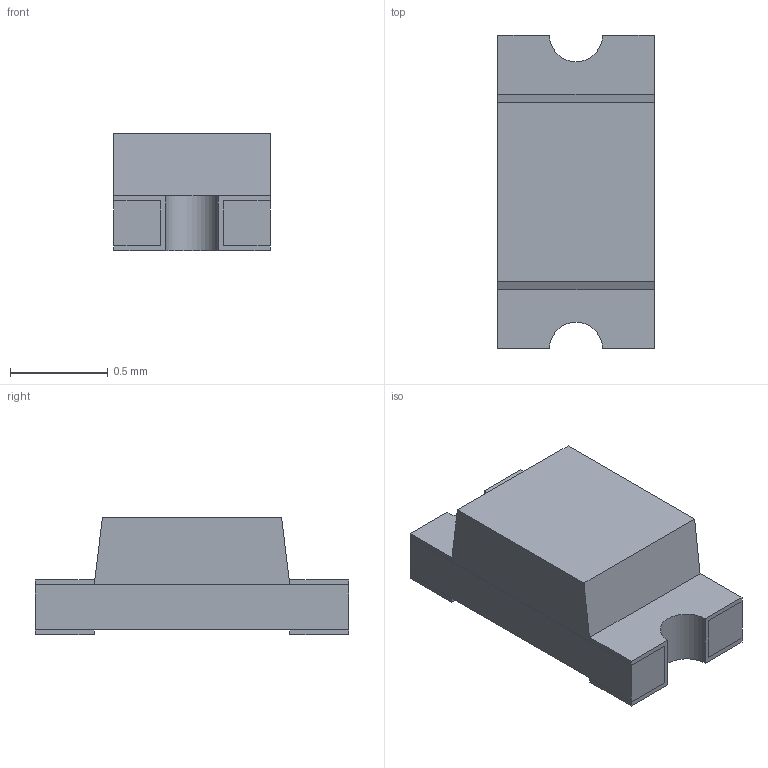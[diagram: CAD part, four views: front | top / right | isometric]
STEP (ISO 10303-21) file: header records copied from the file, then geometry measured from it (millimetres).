
FILE_DESCRIPTION(('FreeCAD Model'),'2;1');
FILE_NAME('Open CASCADE Shape Model','2025-02-28T21:15:03',( 'Krisjanis Rijnieks'),(''),'Open CASCADE STEP processor 7.7', 'FreeCAD','Unknown');
FILE_SCHEMA(('AUTOMOTIVE_DESIGN { 1 0 10303 214 1 1 1 1 }'));
Length unit declared in the file: millimetre
Products named in the file (5): 0603; Base001; Emmiter001; Contact_003; Contact_004
Assembly tree (4 placements, depth 2):
  0603
    Base001
    Emmiter001
    Contact_003
    Contact_004
Bounding box: 0.8 x 1.6 x 0.6 mm (x, y, z)
Volume: 0.6 mm3; surface area: 8.7 mm2
Topology: 4 solids, 4 shells, 44 faces, 108 edges, 72 vertices
Faces by surface type: plane 38, cylinder 6
Entity records: 1404 total; most frequent: CARTESIAN_POINT 229, DIRECTION 218, ORIENTED_EDGE 216, EDGE_CURVE 108, LINE 96, VECTOR 96, VERTEX_POINT 72, AXIS2_PLACEMENT_3D 61
